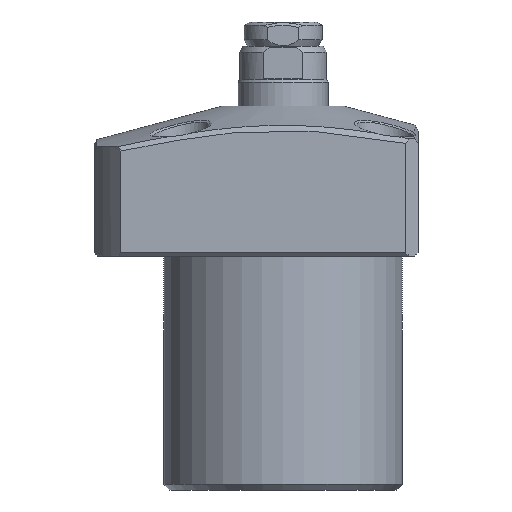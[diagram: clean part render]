
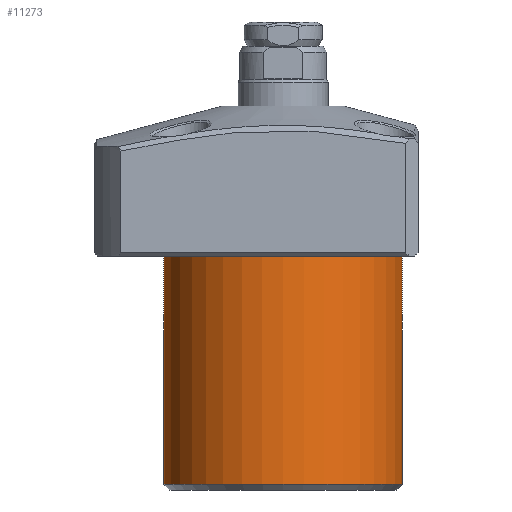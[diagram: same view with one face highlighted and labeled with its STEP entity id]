
A CAD part, front view. The second image highlights one B-rep face of the part: STEP entity #11273.
In plain terms, the highlighted cylindrical face has radius 19.9 mm (diameter 39.8 mm), a partial arc.
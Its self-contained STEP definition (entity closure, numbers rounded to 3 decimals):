
#196 = CARTESIAN_POINT ( 'NONE',  ( 0., 0., 1. ) ) ;
#574 = CARTESIAN_POINT ( 'NONE',  ( 19.9, 0., 39. ) ) ;
#578 = AXIS2_PLACEMENT_3D ( 'NONE', #7548, #5974, #7666 ) ;
#950 = FACE_OUTER_BOUND ( 'NONE', #3053, .T. ) ;
#1065 = CARTESIAN_POINT ( 'NONE',  ( 19.9, 0., 1. ) ) ;
#1344 = CARTESIAN_POINT ( 'NONE',  ( -19.9, 0., 39. ) ) ;
#1562 = CARTESIAN_POINT ( 'NONE',  ( 19.9, 0., 39. ) ) ;
#1775 = VERTEX_POINT ( 'NONE', #1562 ) ;
#2278 = CARTESIAN_POINT ( 'NONE',  ( -19.9, 0., 1. ) ) ;
#2841 = CYLINDRICAL_SURFACE ( 'NONE', #11371, 19.9 ) ;
#3053 = EDGE_LOOP ( 'NONE', ( #6246, #3991, #3721, #8097 ) ) ;
#3425 = LINE ( 'NONE', #7022, #8907 ) ;
#3721 = ORIENTED_EDGE ( 'NONE', *, *, #11116, .T. ) ;
#3784 = DIRECTION ( 'NONE',  ( 0., 0., 1. ) ) ;
#3825 = DIRECTION ( 'NONE',  ( 0., 0., -1. ) ) ;
#3991 = ORIENTED_EDGE ( 'NONE', *, *, #10470, .F. ) ;
#4172 = DIRECTION ( 'NONE',  ( 0., 0., -1. ) ) ;
#4662 = CARTESIAN_POINT ( 'NONE',  ( 0., 0., 39. ) ) ;
#5112 = LINE ( 'NONE', #574, #5713 ) ;
#5713 = VECTOR ( 'NONE', #4172, 1000. ) ;
#5974 = DIRECTION ( 'NONE',  ( 0., 0., 1. ) ) ;
#6206 = DIRECTION ( 'NONE',  ( 1., 0., 0. ) ) ;
#6246 = ORIENTED_EDGE ( 'NONE', *, *, #6799, .F. ) ;
#6593 = CIRCLE ( 'NONE', #9398, 19.9 ) ;
#6799 = EDGE_CURVE ( 'NONE', #1775, #11224, #5112, .T. ) ;
#7022 = CARTESIAN_POINT ( 'NONE',  ( -19.9, 0., 39. ) ) ;
#7548 = CARTESIAN_POINT ( 'NONE',  ( 0., 0., 39. ) ) ;
#7666 = DIRECTION ( 'NONE',  ( 1., 0., 0. ) ) ;
#8097 = ORIENTED_EDGE ( 'NONE', *, *, #9882, .T. ) ;
#8270 = VERTEX_POINT ( 'NONE', #2278 ) ;
#8907 = VECTOR ( 'NONE', #10602, 1000. ) ;
#9398 = AXIS2_PLACEMENT_3D ( 'NONE', #196, #3784, #6206 ) ;
#9537 = VERTEX_POINT ( 'NONE', #1344 ) ;
#9882 = EDGE_CURVE ( 'NONE', #8270, #11224, #6593, .T. ) ;
#10470 = EDGE_CURVE ( 'NONE', #9537, #1775, #11289, .T. ) ;
#10602 = DIRECTION ( 'NONE',  ( 0., 0., -1. ) ) ;
#11005 = DIRECTION ( 'NONE',  ( -1., 0., 0. ) ) ;
#11116 = EDGE_CURVE ( 'NONE', #9537, #8270, #3425, .T. ) ;
#11224 = VERTEX_POINT ( 'NONE', #1065 ) ;
#11273 = ADVANCED_FACE ( 'NONE', ( #950 ), #2841, .T. ) ;
#11289 = CIRCLE ( 'NONE', #578, 19.9 ) ;
#11371 = AXIS2_PLACEMENT_3D ( 'NONE', #4662, #3825, #11005 ) ;
